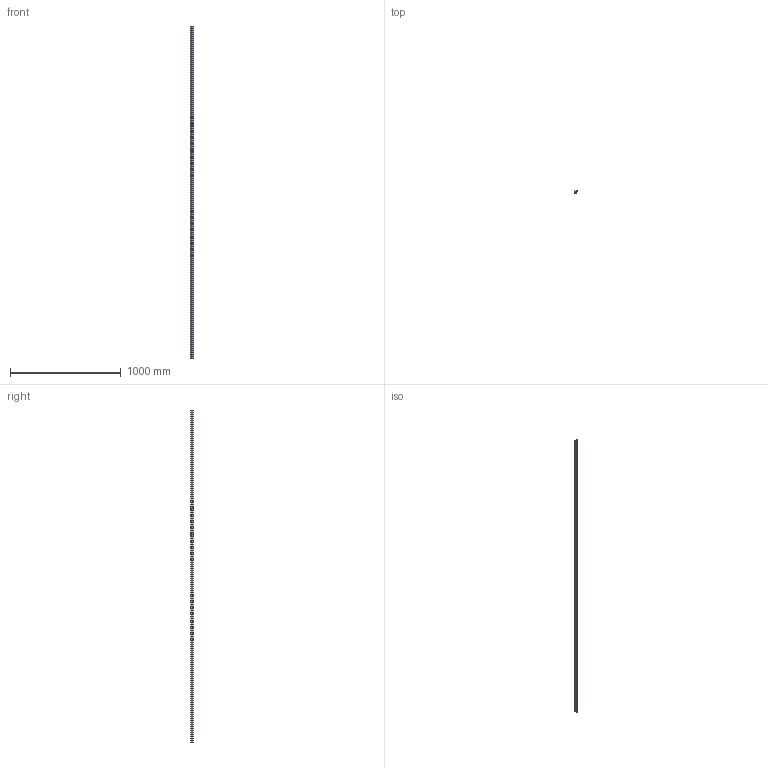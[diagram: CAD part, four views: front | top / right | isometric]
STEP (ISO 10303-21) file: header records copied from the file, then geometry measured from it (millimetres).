
FILE_DESCRIPTION (( 'STEP AP214' ), '1' );
FILE_NAME ('P10495L3.STEP', '2024-01-24T08:30:59', ( '' ), ( '' ), 'SwSTEP 2.0', 'SolidWorks 2022', '' );
FILE_SCHEMA (( 'AUTOMOTIVE_DESIGN' ));
Length unit declared in the file: millimetre
Products named in the file (1): P10495L3
Bounding box: 28.6 x 19.8 x 3000 mm (x, y, z)
Volume: 1044847.8 mm3; surface area: 359992.8 mm2
Topology: 1 solids, 1 shells, 25 faces, 69 edges, 46 vertices
Faces by surface type: plane 14, cylinder 11
Entity records: 839 total; most frequent: DIRECTION 143, CARTESIAN_POINT 141, ORIENTED_EDGE 138, EDGE_CURVE 69, AXIS2_PLACEMENT_3D 48, VECTOR 47, LINE 47, VERTEX_POINT 46
